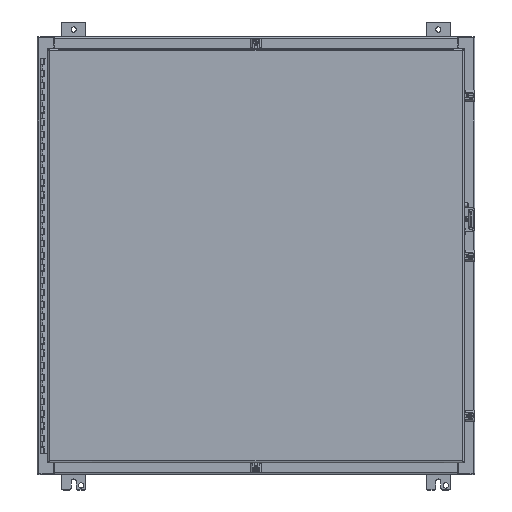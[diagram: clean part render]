
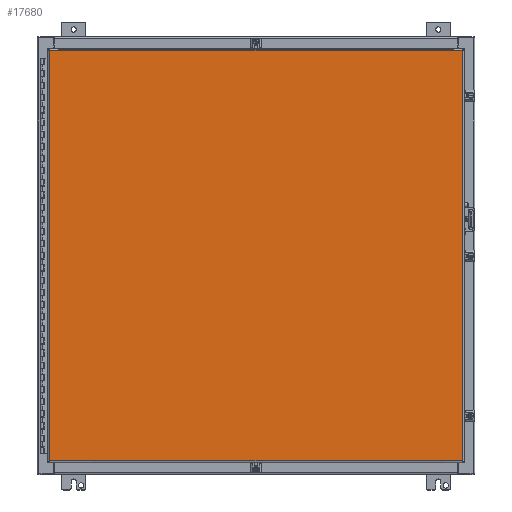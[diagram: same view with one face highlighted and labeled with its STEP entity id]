
A CAD part, top view. The second image highlights one B-rep face of the part: STEP entity #17680.
In plain terms, the highlighted planar face has unit normal (0, 0, 1) as drawn and (0, 1, 0) by its records, which use the part's own axes.
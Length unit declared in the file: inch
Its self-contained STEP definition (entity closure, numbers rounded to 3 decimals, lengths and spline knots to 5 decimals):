
#15691=DIRECTION('',(0.,0.,1.));
#15692=VECTOR('',#15691,33.96);
#15693=CARTESIAN_POINT('',(-16.88638,0.,0.145));
#15694=LINE('',#15693,#15692);
#15741=DIRECTION('',(0.,0.,1.));
#15742=VECTOR('',#15741,33.96);
#15743=CARTESIAN_POINT('',(16.88638,0.,0.145));
#15744=LINE('',#15743,#15742);
#15843=DIRECTION('',(-1.,0.,0.));
#15844=VECTOR('',#15843,33.77275);
#15845=CARTESIAN_POINT('',(16.88638,0.,0.145));
#15846=LINE('',#15845,#15844);
#16687=DIRECTION('',(-1.,0.,0.));
#16688=VECTOR('',#16687,33.77275);
#16689=CARTESIAN_POINT('',(16.88638,0.,34.105));
#16690=LINE('',#16689,#16688);
#16971=CARTESIAN_POINT('',(16.88638,0.,0.145));
#16972=CARTESIAN_POINT('',(-16.88638,0.,0.145));
#16973=VERTEX_POINT('',#16971);
#16974=VERTEX_POINT('',#16972);
#16975=CARTESIAN_POINT('',(16.88638,0.,34.105));
#16976=CARTESIAN_POINT('',(-16.88638,0.,34.105));
#16977=VERTEX_POINT('',#16975);
#16978=VERTEX_POINT('',#16976);
#17666=CARTESIAN_POINT('',(17.03138,0.,0.));
#17667=DIRECTION('',(0.,1.,0.));
#17668=DIRECTION('',(-1.,0.,0.));
#17669=AXIS2_PLACEMENT_3D('',#17666,#17667,#17668);
#17670=PLANE('',#17669);
#17672=ORIENTED_EDGE('',*,*,#17671,.T.);
#17674=ORIENTED_EDGE('',*,*,#17673,.T.);
#17675=ORIENTED_EDGE('',*,*,#17656,.F.);
#17677=ORIENTED_EDGE('',*,*,#17676,.F.);
#17678=EDGE_LOOP('',(#17672,#17674,#17675,#17677));
#17679=FACE_OUTER_BOUND('',#17678,.F.);
#17656=EDGE_CURVE('',#16974,#16978,#15694,.T.);
#17671=EDGE_CURVE('',#16973,#16977,#15744,.T.);
#17673=EDGE_CURVE('',#16977,#16978,#16690,.T.);
#17676=EDGE_CURVE('',#16973,#16974,#15846,.T.);
#17680=ADVANCED_FACE('',(#17679),#17670,.T.);
